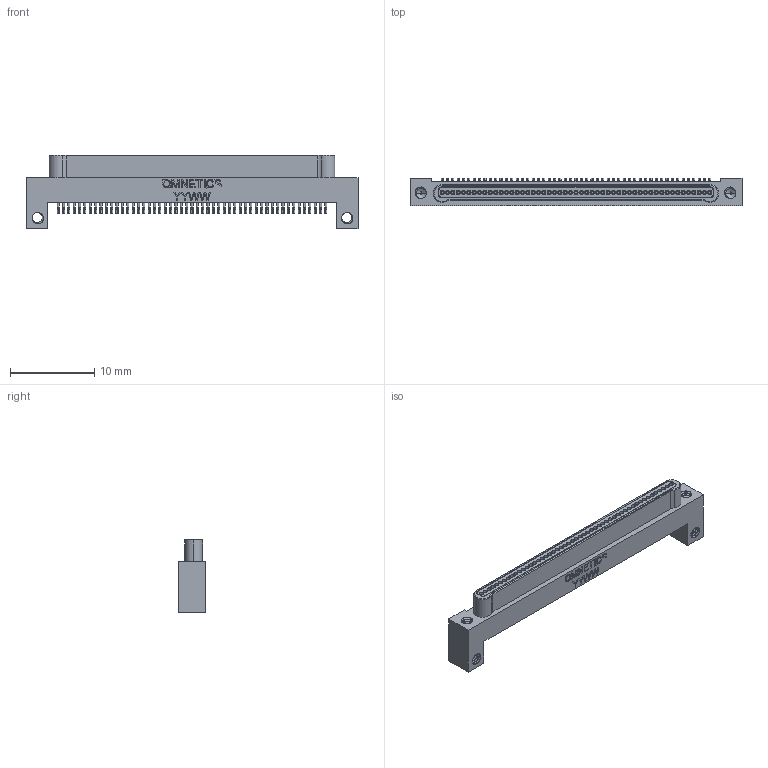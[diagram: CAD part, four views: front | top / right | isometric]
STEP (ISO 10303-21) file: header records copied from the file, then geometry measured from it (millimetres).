
FILE_DESCRIPTION (( 'STEP AP214' ), '1' );
FILE_NAME ('A54100-051 REV E.STEP', '2020-05-11T13:17:19', ( '' ), ( '' ), 'SwSTEP 2.0', 'SolidWorks 2019', '' );
FILE_SCHEMA (( 'AUTOMOTIVE_DESIGN' ));
Length unit declared in the file: inch
Products named in the file (1): A54100-051 Rev E
Bounding box: 39.37 x 3.31 x 8.76 mm (x, y, z)
Volume: 503.5 mm3; surface area: 1744.3 mm2
Topology: 1 solids, 1 shells, 1303 faces, 2940 edges, 1854 vertices
Faces by surface type: cylinder 697, plane 341, torus 204, bspline 45, cone 16
Entity records: 46465 total; most frequent: CARTESIAN_POINT 16604, DIRECTION 6782, ORIENTED_EDGE 5876, EDGE_CURVE 2938, AXIS2_PLACEMENT_3D 2847, VERTEX_POINT 1854, CIRCLE 1588, EDGE_LOOP 1528
